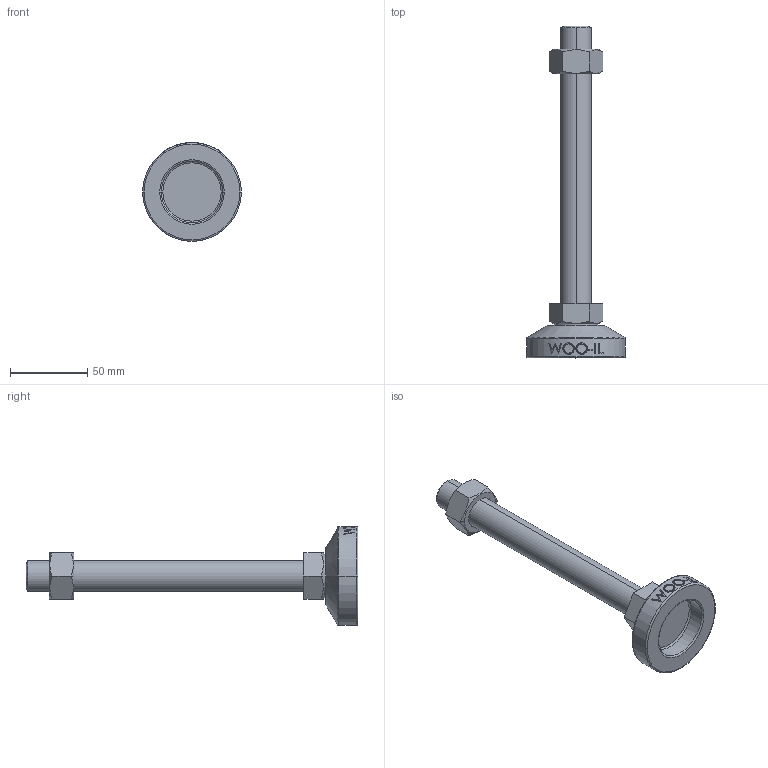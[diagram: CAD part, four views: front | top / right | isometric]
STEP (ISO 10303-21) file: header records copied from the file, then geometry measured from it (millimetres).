
FILE_DESCRIPTION (( 'STEP AP214' ), '1' );
FILE_NAME ('MFZ64-M20-180.step', '2021-01-15T07:07:13', ( '' ), ( '' ), 'SwSTEP 2.0', 'SolidWorks 2019', '' );
FILE_SCHEMA (( 'AUTOMOTIVE_DESIGN' ));
Length unit declared in the file: millimetre
Products named in the file (2): MFZ64-M20-180
Bounding box: 64 x 215 x 64 mm (x, y, z)
Volume: 118337.5 mm3; surface area: 28281.1 mm2
Topology: 3 solids, 3 shells, 106 faces, 243 edges, 154 vertices
Faces by surface type: plane 48, cylinder 18, bspline 16, cone 14, torus 10
Entity records: 4532 total; most frequent: CARTESIAN_POINT 2189, ORIENTED_EDGE 486, DIRECTION 439, EDGE_CURVE 243, AXIS2_PLACEMENT_3D 170, VERTEX_POINT 154, EDGE_LOOP 119, ADVANCED_FACE 106
